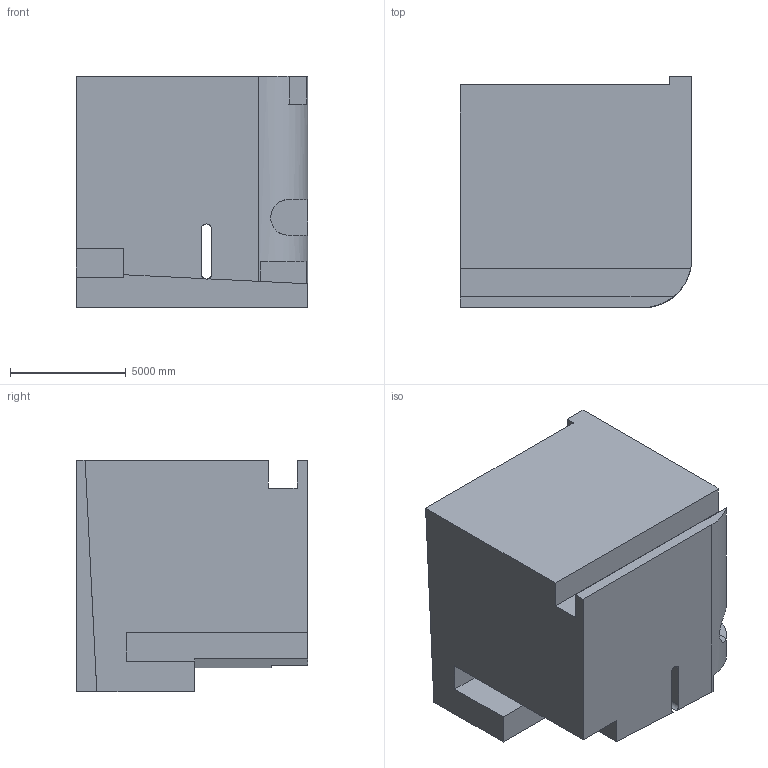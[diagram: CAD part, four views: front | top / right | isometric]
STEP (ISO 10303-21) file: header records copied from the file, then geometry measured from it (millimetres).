
FILE_DESCRIPTION (( 'STEP AP203' ), '1' );
FILE_NAME ('71.STEP', '2022-09-01T11:56:03', ( 'user' ), ( '' ), 'SwSTEP 2.0', 'SolidWorks 2021', '' );
FILE_SCHEMA (( 'CONFIG_CONTROL_DESIGN' ));
Length unit declared in the file: centimetre
Products named in the file (1): 71
Bounding box: 10000 x 10000 x 10000 mm (x, y, z)
Volume: 812436891050.5 mm3; surface area: 661880362.8 mm2
Topology: 1 solids, 1 shells, 32 faces, 93 edges, 62 vertices
Faces by surface type: plane 27, cylinder 5
Entity records: 1245 total; most frequent: CARTESIAN_POINT 320, ORIENTED_EDGE 186, DIRECTION 165, EDGE_CURVE 93, VECTOR 75, LINE 75, VERTEX_POINT 62, AXIS2_PLACEMENT_3D 45
